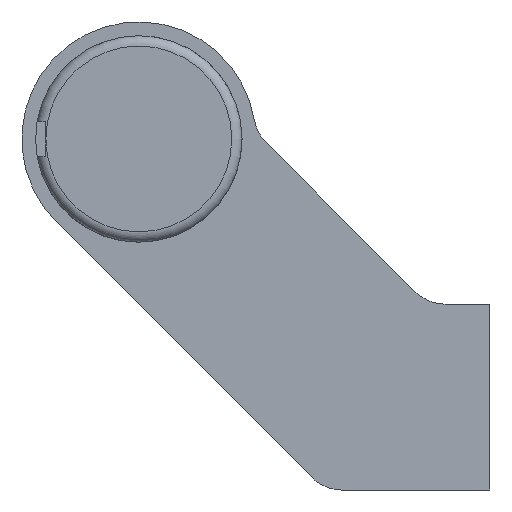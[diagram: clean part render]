
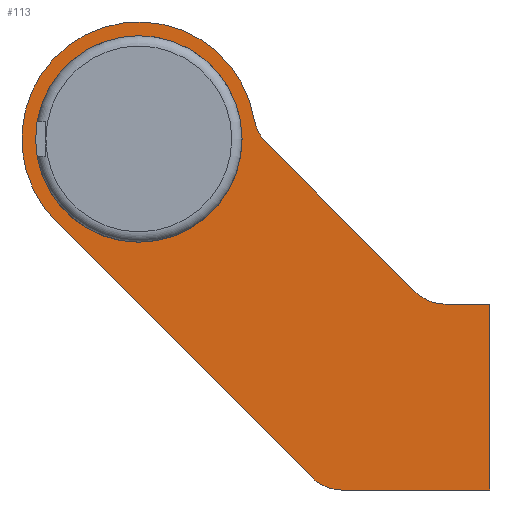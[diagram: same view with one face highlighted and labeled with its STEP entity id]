
A CAD part, left-side view. The second image highlights one B-rep face of the part: STEP entity #113.
In plain terms, the highlighted planar face has unit normal (-1, 0, 0).
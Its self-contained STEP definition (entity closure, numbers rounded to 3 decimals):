
#113 = ADVANCED_FACE( '', ( #212, #213 ), #214, .F. );
#212 = FACE_BOUND( '', #325, .T. );
#213 = FACE_OUTER_BOUND( '', #326, .T. );
#214 = PLANE( '', #327 );
#325 = EDGE_LOOP( '', ( #621 ) );
#326 = EDGE_LOOP( '', ( #622, #623, #624, #625, #626, #627, #628, #629, #630 ) );
#327 = AXIS2_PLACEMENT_3D( '', #631, #632, #633 );
#621 = ORIENTED_EDGE( '', *, *, #734, .T. );
#622 = ORIENTED_EDGE( '', *, *, #761, .F. );
#623 = ORIENTED_EDGE( '', *, *, #735, .F. );
#624 = ORIENTED_EDGE( '', *, *, #739, .F. );
#625 = ORIENTED_EDGE( '', *, *, #743, .F. );
#626 = ORIENTED_EDGE( '', *, *, #746, .F. );
#627 = ORIENTED_EDGE( '', *, *, #749, .T. );
#628 = ORIENTED_EDGE( '', *, *, #752, .F. );
#629 = ORIENTED_EDGE( '', *, *, #755, .T. );
#630 = ORIENTED_EDGE( '', *, *, #758, .F. );
#631 = CARTESIAN_POINT( '', ( -158.5, 51., 37.5 ) );
#632 = DIRECTION( '', ( 1., 0., 0. ) );
#633 = DIRECTION( '', ( 0., 0., -1. ) );
#734 = EDGE_CURVE( '', #866, #866, #867, .T. );
#735 = EDGE_CURVE( '', #868, #869, #870, .T. );
#739 = EDGE_CURVE( '', #876, #868, #877, .T. );
#743 = EDGE_CURVE( '', #883, #876, #884, .T. );
#746 = EDGE_CURVE( '', #888, #883, #889, .T. );
#749 = EDGE_CURVE( '', #888, #893, #894, .T. );
#752 = EDGE_CURVE( '', #898, #893, #899, .T. );
#755 = EDGE_CURVE( '', #898, #903, #904, .T. );
#758 = EDGE_CURVE( '', #908, #903, #909, .T. );
#761 = EDGE_CURVE( '', #869, #908, #913, .T. );
#866 = VERTEX_POINT( '', #1114 );
#867 = CIRCLE( '', #1115, 15. );
#868 = VERTEX_POINT( '', #1116 );
#869 = VERTEX_POINT( '', #1117 );
#870 = CIRCLE( '', #1118, 6. );
#876 = VERTEX_POINT( '', #1126 );
#877 = LINE( '', #1127, #1128 );
#883 = VERTEX_POINT( '', #1136 );
#884 = LINE( '', #1137, #1138 );
#888 = VERTEX_POINT( '', #1144 );
#889 = LINE( '', #1145, #1146 );
#893 = VERTEX_POINT( '', #1152 );
#894 = CIRCLE( '', #1153, 6. );
#898 = VERTEX_POINT( '', #1158 );
#899 = LINE( '', #1159, #1160 );
#903 = VERTEX_POINT( '', #1166 );
#904 = CIRCLE( '', #1167, 6. );
#908 = VERTEX_POINT( '', #1172 );
#909 = CIRCLE( '', #1173, 17. );
#913 = LINE( '', #1178, #1179 );
#1114 = CARTESIAN_POINT( '', ( -158.5, 51., 22.5 ) );
#1115 = AXIS2_PLACEMENT_3D( '', #1285, #1286, #1287 );
#1116 = CARTESIAN_POINT( '', ( -158.5, 21.556, -13.5 ) );
#1117 = CARTESIAN_POINT( '', ( -158.5, 25.799, -11.743 ) );
#1118 = AXIS2_PLACEMENT_3D( '', #1288, #1289, #1290 );
#1126 = CARTESIAN_POINT( '', ( -158.5, 0., -13.5 ) );
#1127 = CARTESIAN_POINT( '', ( -158.5, 0., -13.5 ) );
#1128 = VECTOR( '', #1296, 1000. );
#1136 = CARTESIAN_POINT( '', ( -158.5, 0., 13.5 ) );
#1137 = CARTESIAN_POINT( '', ( -158.5, 0., 13.5 ) );
#1138 = VECTOR( '', #1302, 1000. );
#1144 = CARTESIAN_POINT( '', ( -158.5, 6.515, 13.5 ) );
#1145 = CARTESIAN_POINT( '', ( -158.5, 6.515, 13.5 ) );
#1146 = VECTOR( '', #1305, 1000. );
#1152 = CARTESIAN_POINT( '', ( -158.5, 10.757, 15.257 ) );
#1153 = AXIS2_PLACEMENT_3D( '', #1308, #1309, #1310 );
#1158 = CARTESIAN_POINT( '', ( -158.5, 32.559, 37.059 ) );
#1159 = CARTESIAN_POINT( '', ( -158.5, 32.559, 37.059 ) );
#1160 = VECTOR( '', #1315, 1000. );
#1166 = CARTESIAN_POINT( '', ( -158.5, 34.234, 40.31 ) );
#1167 = AXIS2_PLACEMENT_3D( '', #1318, #1319, #1320 );
#1172 = CARTESIAN_POINT( '', ( -158.5, 63.021, 25.479 ) );
#1173 = AXIS2_PLACEMENT_3D( '', #1325, #1326, #1327 );
#1178 = CARTESIAN_POINT( '', ( -158.5, 25.799, -11.743 ) );
#1179 = VECTOR( '', #1332, 1000. );
#1285 = CARTESIAN_POINT( '', ( -158.5, 51., 37.5 ) );
#1286 = DIRECTION( '', ( 1., 0., 0. ) );
#1287 = DIRECTION( '', ( 0., 0., -1. ) );
#1288 = CARTESIAN_POINT( '', ( -158.5, 21.556, -7.5 ) );
#1289 = DIRECTION( '', ( 1., 0., 0. ) );
#1290 = DIRECTION( '', ( 0., 0., -1. ) );
#1296 = DIRECTION( '', ( 0., 1., 0. ) );
#1302 = DIRECTION( '', ( 0., 0., -1. ) );
#1305 = DIRECTION( '', ( 0., -1., 0. ) );
#1308 = CARTESIAN_POINT( '', ( -158.5, 6.515, 19.5 ) );
#1309 = DIRECTION( '', ( 1., 0., 0. ) );
#1310 = DIRECTION( '', ( 0., 0., -1. ) );
#1315 = DIRECTION( '', ( 0., -0.707, -0.707 ) );
#1318 = CARTESIAN_POINT( '', ( -158.5, 28.316, 41.302 ) );
#1319 = DIRECTION( '', ( 1., 0., 0. ) );
#1320 = DIRECTION( '', ( 0., 0., -1. ) );
#1325 = CARTESIAN_POINT( '', ( -158.5, 51., 37.5 ) );
#1326 = DIRECTION( '', ( 1., 0., 0. ) );
#1327 = DIRECTION( '', ( 0., 0., -1. ) );
#1332 = DIRECTION( '', ( 0., 0.707, 0.707 ) );
